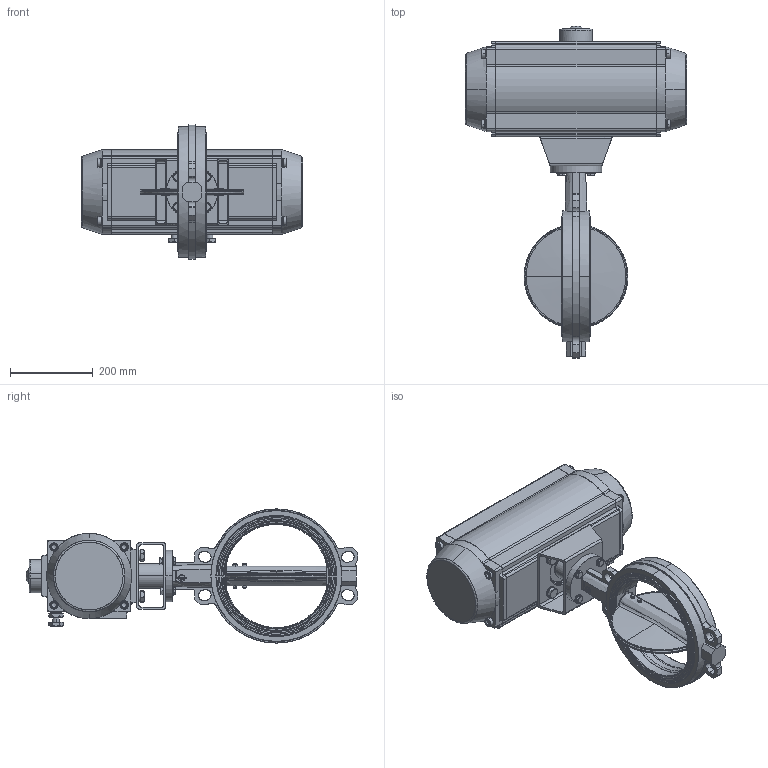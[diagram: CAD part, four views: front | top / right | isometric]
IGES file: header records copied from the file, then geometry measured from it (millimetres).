
Start section: SolidWorks IGES file using analytic representation for surfaces
Global section: file name: H:\BE BIBLIOTHEQUE 3D\BE SECTION 01 - ROBINETS A PAPILLON_VANNES PASSAGE DIRECTE\VP - Vanne Papillon\VPG\VPG4XXX-N07\WAFER\DN250\VPG444X-N07XX0250.igs; native system: SolidWorks 2020; preprocessor: SolidWorks 2020; author: k.gigout; date: 220607.083457; units: millimetre
Bounding box: 534 x 801.52 x 323.89 mm (x, y, z)
Surface area: 1092209.7 mm2 (no closed solid volume)
Topology: 0 solids, 0 shells, 784 faces, 22722 edges, 22722 vertices
Faces by surface type: bspline 441, revolution 343
